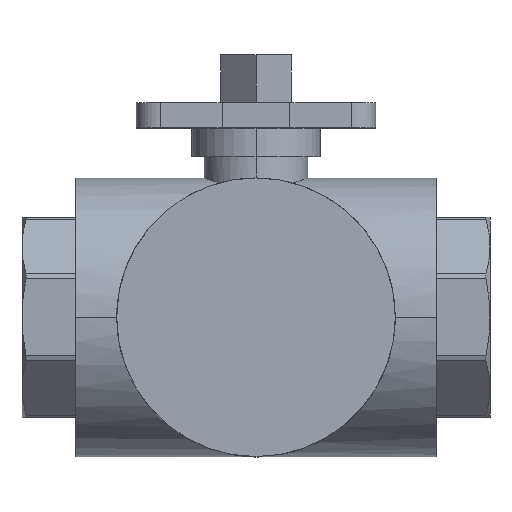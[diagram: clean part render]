
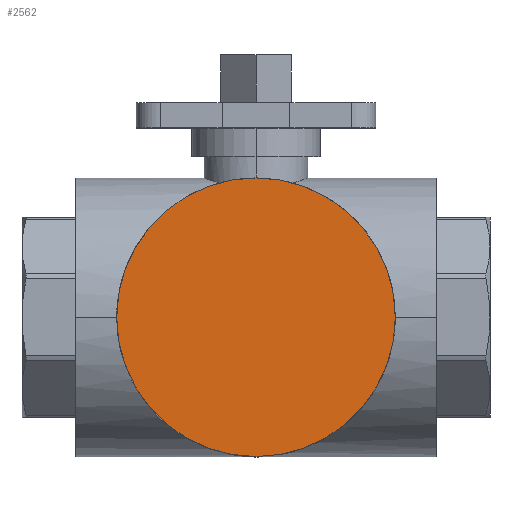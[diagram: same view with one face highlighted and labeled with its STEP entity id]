
A CAD part, top view. The second image highlights one B-rep face of the part: STEP entity #2562.
In plain terms, the highlighted planar face has unit normal (0, 0, 1).
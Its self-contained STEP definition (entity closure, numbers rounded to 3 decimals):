
#401 = DIRECTION ( 'NONE',  ( 0., 0., 1. ) ) ;
#583 = DIRECTION ( 'NONE',  ( -1., 0., 0. ) ) ;
#975 = DIRECTION ( 'NONE',  ( 0., 0., 1. ) ) ;
#1082 = AXIS2_PLACEMENT_3D ( 'NONE', #3539, #3120, #583 ) ;
#1209 = AXIS2_PLACEMENT_3D ( 'NONE', #2935, #401, #3360 ) ;
#1676 = ORIENTED_EDGE ( 'NONE', *, *, #1679, .T. ) ;
#1679 = EDGE_CURVE ( 'NONE', #4652, #4283, #3727, .T. ) ;
#1680 = CARTESIAN_POINT ( 'NONE',  ( 39., 0., 39. ) ) ;
#1834 = PLANE ( 'NONE',  #1082 ) ;
#2070 = EDGE_CURVE ( 'NONE', #4283, #4652, #3125, .T. ) ;
#2562 = ADVANCED_FACE ( 'NONE', ( #5232 ), #1834, .F. ) ;
#2935 = CARTESIAN_POINT ( 'NONE',  ( 0., 0., 39. ) ) ;
#3120 = DIRECTION ( 'NONE',  ( 0., 0., -1. ) ) ;
#3125 = CIRCLE ( 'NONE', #4202, 39. ) ;
#3237 = EDGE_LOOP ( 'NONE', ( #4786, #1676 ) ) ;
#3360 = DIRECTION ( 'NONE',  ( 1., 0., 0. ) ) ;
#3517 = CARTESIAN_POINT ( 'NONE',  ( 0., 0., 39. ) ) ;
#3539 = CARTESIAN_POINT ( 'NONE',  ( 0., 39., 39. ) ) ;
#3727 = CIRCLE ( 'NONE', #1209, 39. ) ;
#3937 = DIRECTION ( 'NONE',  ( 1., 0., 0. ) ) ;
#4202 = AXIS2_PLACEMENT_3D ( 'NONE', #3517, #975, #3937 ) ;
#4283 = VERTEX_POINT ( 'NONE', #5082 ) ;
#4652 = VERTEX_POINT ( 'NONE', #1680 ) ;
#4786 = ORIENTED_EDGE ( 'NONE', *, *, #2070, .T. ) ;
#5082 = CARTESIAN_POINT ( 'NONE',  ( -39., 0., 39. ) ) ;
#5232 = FACE_OUTER_BOUND ( 'NONE', #3237, .T. ) ;
